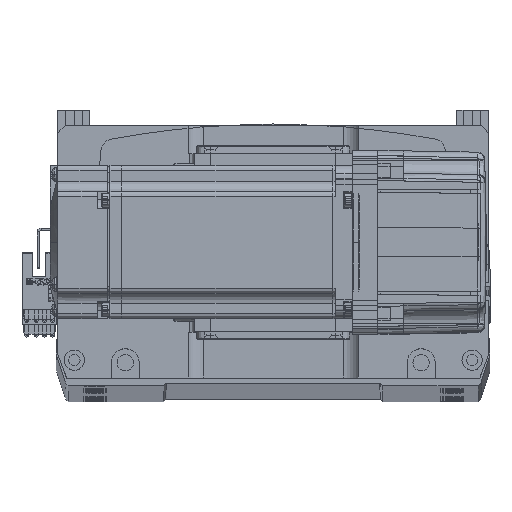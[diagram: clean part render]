
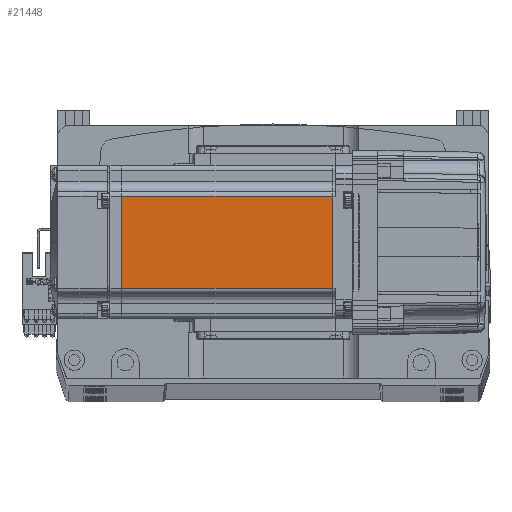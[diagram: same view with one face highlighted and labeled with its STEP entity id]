
A CAD part, top view. The second image highlights one B-rep face of the part: STEP entity #21448.
In plain terms, the highlighted planar face has unit normal (0, 0, 1).
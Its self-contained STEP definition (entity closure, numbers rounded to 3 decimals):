
#587 = CARTESIAN_POINT ( 'NONE',  ( -7.75, -18., 30. ) ) ;
#940 = EDGE_LOOP ( 'NONE', ( #14531, #38180, #14446, #14241 ) ) ;
#4621 = VERTEX_POINT ( 'NONE', #32937 ) ;
#8749 = VECTOR ( 'NONE', #24868, 1000. ) ;
#11521 = VECTOR ( 'NONE', #33065, 1000. ) ;
#14241 = ORIENTED_EDGE ( 'NONE', *, *, #59980, .F. ) ;
#14446 = ORIENTED_EDGE ( 'NONE', *, *, #66701, .T. ) ;
#14531 = ORIENTED_EDGE ( 'NONE', *, *, #16086, .F. ) ;
#16086 = EDGE_CURVE ( 'NONE', #4621, #69328, #26529, .T. ) ;
#18383 = CARTESIAN_POINT ( 'NONE',  ( -6.5, -25., 30. ) ) ;
#18618 = PLANE ( 'NONE',  #39734 ) ;
#20071 = CARTESIAN_POINT ( 'NONE',  ( -90.45, 0., 30. ) ) ;
#21448 = ADVANCED_FACE ( 'NONE', ( #22988 ), #18618, .T. ) ;
#22988 = FACE_OUTER_BOUND ( 'NONE', #940, .T. ) ;
#23506 = VECTOR ( 'NONE', #59608, 1000. ) ;
#24868 = DIRECTION ( 'NONE',  ( -1., 0., 0. ) ) ;
#25455 = CARTESIAN_POINT ( 'NONE',  ( -90.45, -18., 30. ) ) ;
#25661 = CARTESIAN_POINT ( 'NONE',  ( -7.75, 0., 30. ) ) ;
#26529 = LINE ( 'NONE', #25661, #11521 ) ;
#30096 = VERTEX_POINT ( 'NONE', #25455 ) ;
#32937 = CARTESIAN_POINT ( 'NONE',  ( -7.75, 18., 30. ) ) ;
#33065 = DIRECTION ( 'NONE',  ( 0., -1., 0. ) ) ;
#33381 = VERTEX_POINT ( 'NONE', #55780 ) ;
#38180 = ORIENTED_EDGE ( 'NONE', *, *, #56517, .T. ) ;
#39658 = LINE ( 'NONE', #52782, #8749 ) ;
#39734 = AXIS2_PLACEMENT_3D ( 'NONE', #18383, #57902, #63826 ) ;
#49115 = LINE ( 'NONE', #52023, #72983 ) ;
#52023 = CARTESIAN_POINT ( 'NONE',  ( -6.5, 18., 30. ) ) ;
#52782 = CARTESIAN_POINT ( 'NONE',  ( -6.5, -18., 30. ) ) ;
#55780 = CARTESIAN_POINT ( 'NONE',  ( -90.45, 18., 30. ) ) ;
#56517 = EDGE_CURVE ( 'NONE', #4621, #33381, #49115, .T. ) ;
#57902 = DIRECTION ( 'NONE',  ( 0., 0., 1. ) ) ;
#59608 = DIRECTION ( 'NONE',  ( 0., -1., 0. ) ) ;
#59980 = EDGE_CURVE ( 'NONE', #69328, #30096, #39658, .T. ) ;
#63826 = DIRECTION ( 'NONE',  ( 1., 0., 0. ) ) ;
#66701 = EDGE_CURVE ( 'NONE', #33381, #30096, #68607, .T. ) ;
#68607 = LINE ( 'NONE', #20071, #23506 ) ;
#68872 = DIRECTION ( 'NONE',  ( -1., 0., 0. ) ) ;
#69328 = VERTEX_POINT ( 'NONE', #587 ) ;
#72983 = VECTOR ( 'NONE', #68872, 1000. ) ;
